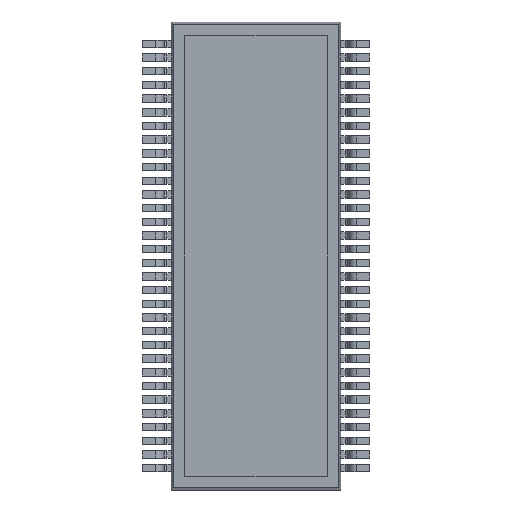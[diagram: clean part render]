
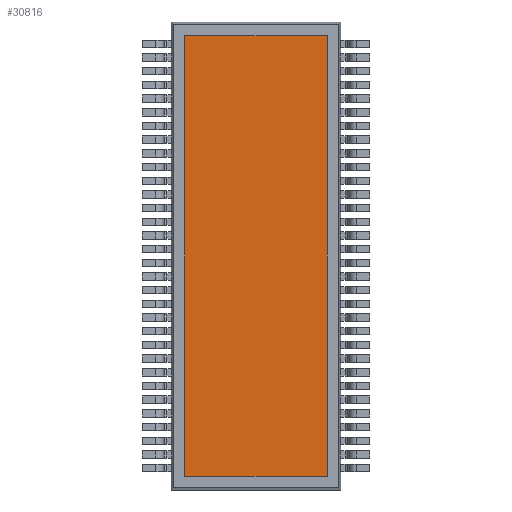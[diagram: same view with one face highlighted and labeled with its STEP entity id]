
A CAD part, front view. The second image highlights one B-rep face of the part: STEP entity #30816.
In plain terms, the highlighted planar face has unit normal (0, -1, 0).
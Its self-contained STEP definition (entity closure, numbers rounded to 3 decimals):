
#459 = FACE_OUTER_BOUND ( 'NONE', #13179, .T. ) ;
#7125 = ORIENTED_EDGE ( 'NONE', *, *, #38118, .T. ) ;
#7127 = ORIENTED_EDGE ( 'NONE', *, *, #38121, .T. ) ;
#7136 = ORIENTED_EDGE ( 'NONE', *, *, #38123, .T. ) ;
#7141 = ORIENTED_EDGE ( 'NONE', *, *, #38124, .T. ) ;
#13179 = EDGE_LOOP ( 'NONE', ( #7125, #7127, #7136, #7141 ) ) ;
#16160 = PLANE ( 'NONE',  #40790 ) ;
#16179 = CARTESIAN_POINT ( 'NONE',  ( 0., 0., 0. ) ) ;
#16180 = DIRECTION ( 'NONE',  ( 0., 1., 0. ) ) ;
#16181 = DIRECTION ( 'NONE',  ( 0., 0., 1. ) ) ;
#18141 = CARTESIAN_POINT ( 'NONE',  ( -2.6, 0., 8.05 ) ) ;
#18686 = CARTESIAN_POINT ( 'NONE',  ( 2.6, 0., 8.05 ) ) ;
#18695 = DIRECTION ( 'NONE',  ( 0., 0., 1. ) ) ;
#18698 = CARTESIAN_POINT ( 'NONE',  ( -2.6, 0., 8.05 ) ) ;
#18701 = CARTESIAN_POINT ( 'NONE',  ( -2.6, 0., 8.05 ) ) ;
#18705 = DIRECTION ( 'NONE',  ( -1., 0., 0. ) ) ;
#18712 = DIRECTION ( 'NONE',  ( 0., 0., -1. ) ) ;
#18715 = CARTESIAN_POINT ( 'NONE',  ( -2.6, 0., -8.05 ) ) ;
#18717 = DIRECTION ( 'NONE',  ( 1., 0., 0. ) ) ;
#19109 = VERTEX_POINT ( 'NONE', #20982 ) ;
#19304 = VERTEX_POINT ( 'NONE', #20775 ) ;
#19326 = VERTEX_POINT ( 'NONE', #20749 ) ;
#19712 = VERTEX_POINT ( 'NONE', #18141 ) ;
#20749 = CARTESIAN_POINT ( 'NONE',  ( 2.6, 0., 8.05 ) ) ;
#20775 = CARTESIAN_POINT ( 'NONE',  ( 2.6, 0., -8.05 ) ) ;
#20982 = CARTESIAN_POINT ( 'NONE',  ( -2.6, 0., -8.05 ) ) ;
#30816 = ADVANCED_FACE ( 'NONE', ( #459 ), #16160, .F. ) ;
#36207 = LINE ( 'NONE', #18686, #36219 ) ;
#36219 = VECTOR ( 'NONE', #18695, 1000. ) ;
#36220 = LINE ( 'NONE', #18698, #36225 ) ;
#36222 = LINE ( 'NONE', #18701, #36228 ) ;
#36225 = VECTOR ( 'NONE', #18705, 1000. ) ;
#36227 = LINE ( 'NONE', #18715, #36230 ) ;
#36228 = VECTOR ( 'NONE', #18712, 1000. ) ;
#36230 = VECTOR ( 'NONE', #18717, 1000. ) ;
#38118 = EDGE_CURVE ( 'NONE', #19304, #19326, #36207, .T. ) ;
#38121 = EDGE_CURVE ( 'NONE', #19326, #19712, #36220, .T. ) ;
#38123 = EDGE_CURVE ( 'NONE', #19712, #19109, #36222, .T. ) ;
#38124 = EDGE_CURVE ( 'NONE', #19109, #19304, #36227, .T. ) ;
#40790 = AXIS2_PLACEMENT_3D ( 'NONE', #16179, #16180, #16181 ) ;
